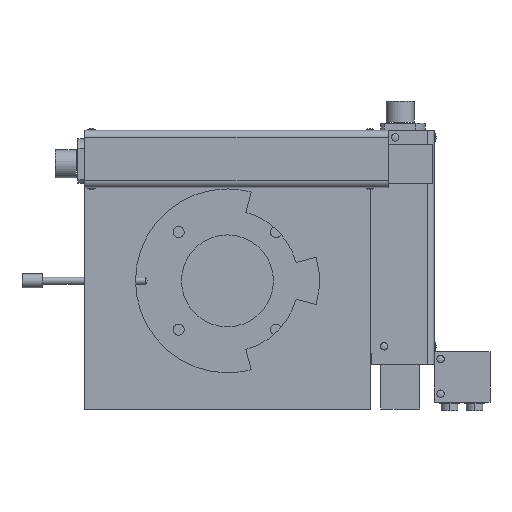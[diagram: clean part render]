
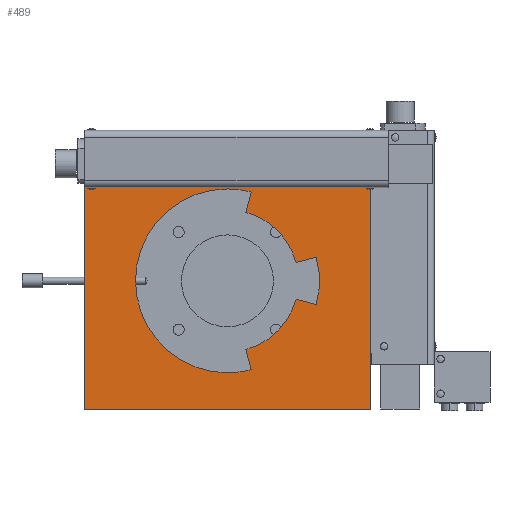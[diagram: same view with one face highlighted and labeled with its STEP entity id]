
A CAD part, front view. The second image highlights one B-rep face of the part: STEP entity #489.
In plain terms, the highlighted planar face has unit normal (0, -1, 0) as drawn and (0, 0, -1) by its records, which use the part's own axes.
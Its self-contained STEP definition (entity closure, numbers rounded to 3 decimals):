
#51 = LINE ( 'NONE', #2584, #13010 ) ;
#489 = ADVANCED_FACE ( 'NONE', ( #5705, #14176 ), #14321, .F. ) ;
#676 = CARTESIAN_POINT ( 'NONE',  ( -102.5, 90., 0. ) ) ;
#680 = CIRCLE ( 'NONE', #2200, 66. ) ;
#702 = CARTESIAN_POINT ( 'NONE',  ( -13.2, 49.262, 0. ) ) ;
#842 = EDGE_CURVE ( 'NONE', #916, #6089, #1473, .T. ) ;
#906 = ORIENTED_EDGE ( 'NONE', *, *, #15108, .F. ) ;
#916 = VERTEX_POINT ( 'NONE', #4497 ) ;
#1016 = DIRECTION ( 'NONE',  ( 0., -1., 0. ) ) ;
#1162 = EDGE_CURVE ( 'NONE', #6720, #13167, #10103, .T. ) ;
#1219 = AXIS2_PLACEMENT_3D ( 'NONE', #2220, #12991, #8322 ) ;
#1257 = AXIS2_PLACEMENT_3D ( 'NONE', #5718, #10312, #2086 ) ;
#1473 = CIRCLE ( 'NONE', #6802, 66. ) ;
#1599 = ORIENTED_EDGE ( 'NONE', *, *, #3498, .F. ) ;
#1757 = VECTOR ( 'NONE', #7627, 1000. ) ;
#1772 = EDGE_CURVE ( 'NONE', #6720, #14447, #4082, .T. ) ;
#2031 = CIRCLE ( 'NONE', #6596, 51. ) ;
#2048 = DIRECTION ( 'NONE',  ( 0., 0., -1. ) ) ;
#2086 = DIRECTION ( 'NONE',  ( 0., -1., 0. ) ) ;
#2200 = AXIS2_PLACEMENT_3D ( 'NONE', #4811, #7744, #12571 ) ;
#2220 = CARTESIAN_POINT ( 'NONE',  ( -102.5, 90., 0. ) ) ;
#2362 = EDGE_CURVE ( 'NONE', #14447, #11188, #5753, .T. ) ;
#2504 = EDGE_CURVE ( 'NONE', #10713, #7675, #10543, .T. ) ;
#2534 = CARTESIAN_POINT ( 'NONE',  ( -49.262, 13.2, 0. ) ) ;
#2584 = CARTESIAN_POINT ( 'NONE',  ( -102.5, -92., 0. ) ) ;
#2642 = EDGE_CURVE ( 'NONE', #6199, #14134, #8562, .T. ) ;
#2668 = ORIENTED_EDGE ( 'NONE', *, *, #2362, .T. ) ;
#2787 = CARTESIAN_POINT ( 'NONE',  ( -17.082, 63.751, 0. ) ) ;
#2803 = CARTESIAN_POINT ( 'NONE',  ( 0., 0., 0. ) ) ;
#2928 = VERTEX_POINT ( 'NONE', #14094 ) ;
#3282 = CIRCLE ( 'NONE', #1257, 66. ) ;
#3366 = CARTESIAN_POINT ( 'NONE',  ( -102.5, 90., 0. ) ) ;
#3374 = ORIENTED_EDGE ( 'NONE', *, *, #1772, .T. ) ;
#3498 = EDGE_CURVE ( 'NONE', #12910, #6199, #15041, .T. ) ;
#3520 = EDGE_CURVE ( 'NONE', #13167, #11188, #51, .T. ) ;
#3612 = DIRECTION ( 'NONE',  ( 1., 0., 0. ) ) ;
#3712 = ORIENTED_EDGE ( 'NONE', *, *, #2504, .F. ) ;
#3828 = EDGE_LOOP ( 'NONE', ( #2668, #9853, #11982, #3374 ) ) ;
#4082 = LINE ( 'NONE', #15013, #15496 ) ;
#4138 = ORIENTED_EDGE ( 'NONE', *, *, #13850, .F. ) ;
#4497 = CARTESIAN_POINT ( 'NONE',  ( 0., 66., 0. ) ) ;
#4811 = CARTESIAN_POINT ( 'NONE',  ( 0., 0., 0. ) ) ;
#5047 = DIRECTION ( 'NONE',  ( 0., 0., -1. ) ) ;
#5080 = EDGE_CURVE ( 'NONE', #8921, #7675, #2031, .T. ) ;
#5307 = ORIENTED_EDGE ( 'NONE', *, *, #5080, .T. ) ;
#5539 = VERTEX_POINT ( 'NONE', #702 ) ;
#5589 = CARTESIAN_POINT ( 'NONE',  ( 102.5, 90., 0. ) ) ;
#5705 = FACE_BOUND ( 'NONE', #8065, .T. ) ;
#5718 = CARTESIAN_POINT ( 'NONE',  ( 0., 0., 0. ) ) ;
#5753 = LINE ( 'NONE', #10579, #15474 ) ;
#6029 = CARTESIAN_POINT ( 'NONE',  ( -13.2, -49.262, 0. ) ) ;
#6089 = VERTEX_POINT ( 'NONE', #6166 ) ;
#6166 = CARTESIAN_POINT ( 'NONE',  ( 0., -66., 0. ) ) ;
#6199 = VERTEX_POINT ( 'NONE', #14963 ) ;
#6207 = VECTOR ( 'NONE', #13540, 1000. ) ;
#6315 = DIRECTION ( 'NONE',  ( 0., -1., 0. ) ) ;
#6581 = DIRECTION ( 'NONE',  ( 0., 0., 1. ) ) ;
#6596 = AXIS2_PLACEMENT_3D ( 'NONE', #2803, #8993, #13737 ) ;
#6720 = VERTEX_POINT ( 'NONE', #3366 ) ;
#6802 = AXIS2_PLACEMENT_3D ( 'NONE', #9560, #2048, #1016 ) ;
#6987 = CARTESIAN_POINT ( 'NONE',  ( -13.2, -49.262, 0. ) ) ;
#7627 = DIRECTION ( 'NONE',  ( -0.259, 0.966, 0. ) ) ;
#7675 = VERTEX_POINT ( 'NONE', #6029 ) ;
#7744 = DIRECTION ( 'NONE',  ( 0., 0., -1. ) ) ;
#8065 = EDGE_LOOP ( 'NONE', ( #1599, #906, #5307, #3712, #13561, #15048, #4138, #11603, #15111, #14067 ) ) ;
#8128 = CIRCLE ( 'NONE', #10145, 51. ) ;
#8322 = DIRECTION ( 'NONE',  ( 0., 1., 0. ) ) ;
#8562 = LINE ( 'NONE', #2534, #11938 ) ;
#8623 = CARTESIAN_POINT ( 'NONE',  ( -63.751, -17.082, 0. ) ) ;
#8921 = VERTEX_POINT ( 'NONE', #12799 ) ;
#8953 = DIRECTION ( 'NONE',  ( -0.707, -0.707, 0. ) ) ;
#8993 = DIRECTION ( 'NONE',  ( 0., 0., 1. ) ) ;
#9046 = LINE ( 'NONE', #10223, #6207 ) ;
#9057 = DIRECTION ( 'NONE',  ( 0.259, 0.966, 0. ) ) ;
#9326 = DIRECTION ( 'NONE',  ( 0., -1., 0. ) ) ;
#9560 = CARTESIAN_POINT ( 'NONE',  ( 0., 0., 0. ) ) ;
#9853 = ORIENTED_EDGE ( 'NONE', *, *, #3520, .F. ) ;
#10083 = CARTESIAN_POINT ( 'NONE',  ( 102.5, -92., 0. ) ) ;
#10103 = LINE ( 'NONE', #676, #10837 ) ;
#10104 = CARTESIAN_POINT ( 'NONE',  ( -17.082, -63.751, 0. ) ) ;
#10145 = AXIS2_PLACEMENT_3D ( 'NONE', #11157, #6581, #8953 ) ;
#10223 = CARTESIAN_POINT ( 'NONE',  ( -63.751, -17.082, 0. ) ) ;
#10312 = DIRECTION ( 'NONE',  ( 0., 0., -1. ) ) ;
#10543 = LINE ( 'NONE', #6987, #15228 ) ;
#10579 = CARTESIAN_POINT ( 'NONE',  ( 102.5, 90., 0. ) ) ;
#10713 = VERTEX_POINT ( 'NONE', #10104 ) ;
#10837 = VECTOR ( 'NONE', #14938, 1000. ) ;
#11157 = CARTESIAN_POINT ( 'NONE',  ( 0., 0., 0. ) ) ;
#11188 = VERTEX_POINT ( 'NONE', #10083 ) ;
#11218 = CARTESIAN_POINT ( 'NONE',  ( -102.5, -92., 0. ) ) ;
#11603 = ORIENTED_EDGE ( 'NONE', *, *, #14628, .F. ) ;
#11828 = EDGE_CURVE ( 'NONE', #5539, #14134, #8128, .T. ) ;
#11938 = VECTOR ( 'NONE', #13075, 1000. ) ;
#11982 = ORIENTED_EDGE ( 'NONE', *, *, #1162, .F. ) ;
#12327 = EDGE_CURVE ( 'NONE', #6089, #10713, #680, .T. ) ;
#12571 = DIRECTION ( 'NONE',  ( 0., -1., 0. ) ) ;
#12799 = CARTESIAN_POINT ( 'NONE',  ( -49.262, -13.2, 0. ) ) ;
#12910 = VERTEX_POINT ( 'NONE', #8623 ) ;
#12991 = DIRECTION ( 'NONE',  ( 0., 0., 1. ) ) ;
#13010 = VECTOR ( 'NONE', #3612, 1000. ) ;
#13075 = DIRECTION ( 'NONE',  ( 0.966, -0.259, 0. ) ) ;
#13167 = VERTEX_POINT ( 'NONE', #11218 ) ;
#13435 = CARTESIAN_POINT ( 'NONE',  ( 0., 0., 0. ) ) ;
#13540 = DIRECTION ( 'NONE',  ( -0.966, -0.259, 0. ) ) ;
#13561 = ORIENTED_EDGE ( 'NONE', *, *, #12327, .F. ) ;
#13635 = LINE ( 'NONE', #2787, #1757 ) ;
#13737 = DIRECTION ( 'NONE',  ( 0.707, -0.707, 0. ) ) ;
#13850 = EDGE_CURVE ( 'NONE', #2928, #916, #3282, .T. ) ;
#13902 = DIRECTION ( 'NONE',  ( 1., 0., 0. ) ) ;
#14067 = ORIENTED_EDGE ( 'NONE', *, *, #2642, .F. ) ;
#14094 = CARTESIAN_POINT ( 'NONE',  ( -17.082, 63.751, 0. ) ) ;
#14134 = VERTEX_POINT ( 'NONE', #14614 ) ;
#14176 = FACE_OUTER_BOUND ( 'NONE', #3828, .T. ) ;
#14321 = PLANE ( 'NONE',  #1219 ) ;
#14447 = VERTEX_POINT ( 'NONE', #5589 ) ;
#14614 = CARTESIAN_POINT ( 'NONE',  ( -49.262, 13.2, 0. ) ) ;
#14628 = EDGE_CURVE ( 'NONE', #5539, #2928, #13635, .T. ) ;
#14776 = AXIS2_PLACEMENT_3D ( 'NONE', #13435, #5047, #6315 ) ;
#14938 = DIRECTION ( 'NONE',  ( 0., -1., 0. ) ) ;
#14963 = CARTESIAN_POINT ( 'NONE',  ( -63.751, 17.082, 0. ) ) ;
#15013 = CARTESIAN_POINT ( 'NONE',  ( -102.5, 90., 0. ) ) ;
#15041 = CIRCLE ( 'NONE', #14776, 66. ) ;
#15048 = ORIENTED_EDGE ( 'NONE', *, *, #842, .F. ) ;
#15108 = EDGE_CURVE ( 'NONE', #8921, #12910, #9046, .T. ) ;
#15111 = ORIENTED_EDGE ( 'NONE', *, *, #11828, .T. ) ;
#15228 = VECTOR ( 'NONE', #9057, 1000. ) ;
#15474 = VECTOR ( 'NONE', #9326, 1000. ) ;
#15496 = VECTOR ( 'NONE', #13902, 1000. ) ;
